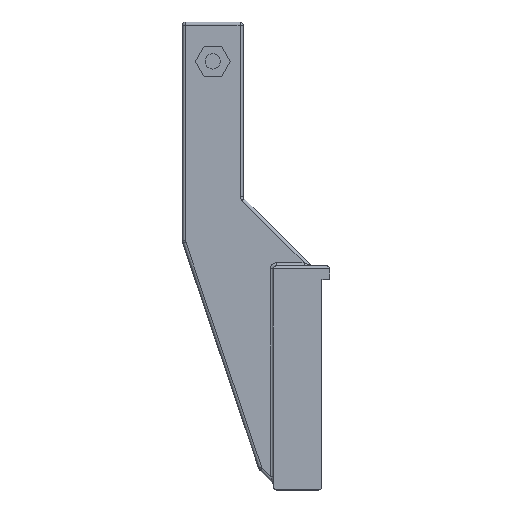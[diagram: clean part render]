
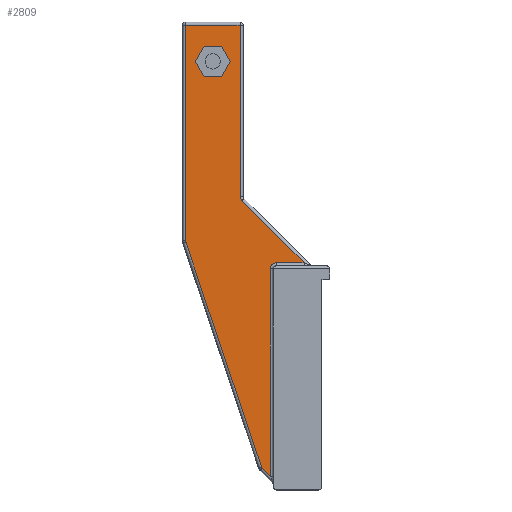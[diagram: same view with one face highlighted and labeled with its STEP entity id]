
A CAD part, top view. The second image highlights one B-rep face of the part: STEP entity #2809.
In plain terms, the highlighted planar face has unit normal (0, 0, 1).
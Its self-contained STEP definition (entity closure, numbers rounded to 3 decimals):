
#24 = EDGE_CURVE ( 'NONE', #2533, #1388, #3323, .T. ) ;
#51 = CARTESIAN_POINT ( 'NONE',  ( 22.772, -4.964, 18. ) ) ;
#77 = CARTESIAN_POINT ( 'NONE',  ( 10.885, 44.566, 18. ) ) ;
#146 = ORIENTED_EDGE ( 'NONE', *, *, #3780, .T. ) ;
#157 = ORIENTED_EDGE ( 'NONE', *, *, #3630, .F. ) ;
#158 = EDGE_CURVE ( 'NONE', #1493, #3966, #3272, .T. ) ;
#178 = CARTESIAN_POINT ( 'NONE',  ( 4.772, -19.743, 18. ) ) ;
#204 = CARTESIAN_POINT ( 'NONE',  ( 30.07, -94.76, 18. ) ) ;
#227 = CARTESIAN_POINT ( 'NONE',  ( 4.772, 51.566, 18. ) ) ;
#248 = VECTOR ( 'NONE', #826, 1000. ) ;
#265 = EDGE_CURVE ( 'NONE', #2603, #2069, #1499, .T. ) ;
#283 = DIRECTION ( 'NONE',  ( 0.5, -0.866, 0. ) ) ;
#301 = EDGE_CURVE ( 'NONE', #633, #522, #3122, .T. ) ;
#319 = DIRECTION ( 'NONE',  ( 0., 0., 1. ) ) ;
#395 = LINE ( 'NONE', #1206, #2754 ) ;
#449 = EDGE_CURVE ( 'NONE', #3808, #2311, #3574, .T. ) ;
#497 = EDGE_LOOP ( 'NONE', ( #2796, #2509, #4215, #946, #759, #1735, #2067, #1888, #146, #3049, #3282, #1085 ) ) ;
#522 = VERTEX_POINT ( 'NONE', #1586 ) ;
#532 = CARTESIAN_POINT ( 'NONE',  ( 45.335, -110.025, 18. ) ) ;
#573 = EDGE_CURVE ( 'NONE', #2217, #3279, #1805, .T. ) ;
#588 = CARTESIAN_POINT ( 'NONE',  ( 32.828, -28.934, 18. ) ) ;
#633 = VERTEX_POINT ( 'NONE', #1621 ) ;
#635 = CARTESIAN_POINT ( 'NONE',  ( 33.828, -121.531, 18. ) ) ;
#646 = DIRECTION ( 'NONE',  ( -1., 0., 0. ) ) ;
#669 = DIRECTION ( 'NONE',  ( 0., 0., 1. ) ) ;
#678 = LINE ( 'NONE', #1961, #3745 ) ;
#718 = DIRECTION ( 'NONE',  ( 1., 0., 0. ) ) ;
#758 = VECTOR ( 'NONE', #1909, 1000. ) ;
#759 = ORIENTED_EDGE ( 'NONE', *, *, #858, .T. ) ;
#809 = VECTOR ( 'NONE', #3396, 1000. ) ;
#826 = DIRECTION ( 'NONE',  ( 0., 1., 0. ) ) ;
#858 = EDGE_CURVE ( 'NONE', #2069, #1022, #3883, .T. ) ;
#873 = DIRECTION ( 'NONE',  ( -1., 0., 0. ) ) ;
#876 = DIRECTION ( 'NONE',  ( -1., 0., 0. ) ) ;
#946 = ORIENTED_EDGE ( 'NONE', *, *, #265, .T. ) ;
#1022 = VERTEX_POINT ( 'NONE', #3218 ) ;
#1049 = EDGE_CURVE ( 'NONE', #1645, #3808, #1285, .T. ) ;
#1069 = AXIS2_PLACEMENT_3D ( 'NONE', #3806, #2815, #873 ) ;
#1085 = ORIENTED_EDGE ( 'NONE', *, *, #24, .T. ) ;
#1149 = DIRECTION ( 'NONE',  ( 0.707, -0.707, 0. ) ) ;
#1206 = CARTESIAN_POINT ( 'NONE',  ( 4.772, -121.531, 18. ) ) ;
#1277 = DIRECTION ( 'NONE',  ( -0.5, -0.866, 0. ) ) ;
#1285 = LINE ( 'NONE', #3599, #758 ) ;
#1336 = LINE ( 'NONE', #532, #2103 ) ;
#1388 = VERTEX_POINT ( 'NONE', #204 ) ;
#1429 = AXIS2_PLACEMENT_3D ( 'NONE', #4168, #1535, #3875 ) ;
#1469 = EDGE_CURVE ( 'NONE', #2603, #3966, #4125, .T. ) ;
#1493 = VERTEX_POINT ( 'NONE', #2624 ) ;
#1499 = LINE ( 'NONE', #3383, #1715 ) ;
#1535 = DIRECTION ( 'NONE',  ( 0., 0., 1. ) ) ;
#1557 = VECTOR ( 'NONE', #4027, 1000. ) ;
#1568 = PLANE ( 'NONE',  #3222 ) ;
#1575 = ORIENTED_EDGE ( 'NONE', *, *, #1049, .F. ) ;
#1581 = EDGE_CURVE ( 'NONE', #1388, #1493, #1336, .T. ) ;
#1586 = CARTESIAN_POINT ( 'NONE',  ( 16.659, 34.566, 18. ) ) ;
#1588 = CARTESIAN_POINT ( 'NONE',  ( 32.828, -27.934, 18. ) ) ;
#1621 = CARTESIAN_POINT ( 'NONE',  ( 10.885, 34.566, 18. ) ) ;
#1645 = VERTEX_POINT ( 'NONE', #2860 ) ;
#1668 = DIRECTION ( 'NONE',  ( -1., 0., 0. ) ) ;
#1679 = ORIENTED_EDGE ( 'NONE', *, *, #4012, .F. ) ;
#1694 = LINE ( 'NONE', #2363, #3357 ) ;
#1715 = VECTOR ( 'NONE', #718, 1000. ) ;
#1735 = ORIENTED_EDGE ( 'NONE', *, *, #2676, .T. ) ;
#1805 = LINE ( 'NONE', #4187, #3995 ) ;
#1833 = VERTEX_POINT ( 'NONE', #2505 ) ;
#1843 = CARTESIAN_POINT ( 'NONE',  ( 16.659, 44.566, 18. ) ) ;
#1847 = ORIENTED_EDGE ( 'NONE', *, *, #449, .F. ) ;
#1858 = CARTESIAN_POINT ( 'NONE',  ( 86.17, -69.19, 18. ) ) ;
#1888 = ORIENTED_EDGE ( 'NONE', *, *, #573, .T. ) ;
#1909 = DIRECTION ( 'NONE',  ( -0.5, 0.866, 0. ) ) ;
#1961 = CARTESIAN_POINT ( 'NONE',  ( 10.885, 34.566, 18. ) ) ;
#2000 = EDGE_CURVE ( 'NONE', #2311, #3303, #1694, .T. ) ;
#2020 = CARTESIAN_POINT ( 'NONE',  ( 19.545, 39.566, 18. ) ) ;
#2067 = ORIENTED_EDGE ( 'NONE', *, *, #3239, .T. ) ;
#2069 = VERTEX_POINT ( 'NONE', #3820 ) ;
#2072 = CARTESIAN_POINT ( 'NONE',  ( 34.828, -26.934, 18. ) ) ;
#2089 = VERTEX_POINT ( 'NONE', #178 ) ;
#2103 = VECTOR ( 'NONE', #1149, 1000. ) ;
#2150 = LINE ( 'NONE', #3109, #3980 ) ;
#2191 = DIRECTION ( 'NONE',  ( -0.707, 0.707, 0. ) ) ;
#2217 = VERTEX_POINT ( 'NONE', #3210 ) ;
#2262 = DIRECTION ( 'NONE',  ( 0., 1., 0. ) ) ;
#2311 = VERTEX_POINT ( 'NONE', #77 ) ;
#2332 = CARTESIAN_POINT ( 'NONE',  ( 30.777, -94.053, 18. ) ) ;
#2363 = CARTESIAN_POINT ( 'NONE',  ( 7.998, 39.566, 18. ) ) ;
#2398 = CARTESIAN_POINT ( 'NONE',  ( 10.885, 44.566, 18. ) ) ;
#2432 = ORIENTED_EDGE ( 'NONE', *, *, #301, .F. ) ;
#2505 = CARTESIAN_POINT ( 'NONE',  ( 4.824, -20.062, 18. ) ) ;
#2509 = ORIENTED_EDGE ( 'NONE', *, *, #158, .T. ) ;
#2533 = VERTEX_POINT ( 'NONE', #3409 ) ;
#2575 = EDGE_LOOP ( 'NONE', ( #2432, #1679, #3531, #1847, #1575, #157 ) ) ;
#2584 = CIRCLE ( 'NONE', #1429, 1. ) ;
#2603 = VERTEX_POINT ( 'NONE', #2072 ) ;
#2624 = CARTESIAN_POINT ( 'NONE',  ( 32.828, -97.518, 18. ) ) ;
#2626 = EDGE_CURVE ( 'NONE', #2089, #1833, #2584, .T. ) ;
#2629 = DIRECTION ( 'NONE',  ( 0., 0., -1. ) ) ;
#2653 = DIRECTION ( 'NONE',  ( -1., 0., 0. ) ) ;
#2676 = EDGE_CURVE ( 'NONE', #1022, #4284, #3214, .T. ) ;
#2730 = DIRECTION ( 'NONE',  ( -1., 0., 0. ) ) ;
#2754 = VECTOR ( 'NONE', #3497, 1000. ) ;
#2796 = ORIENTED_EDGE ( 'NONE', *, *, #1581, .T. ) ;
#2809 = ADVANCED_FACE ( 'NONE', ( #3676, #3569 ), #1568, .F. ) ;
#2815 = DIRECTION ( 'NONE',  ( 0., 0., -1. ) ) ;
#2860 = CARTESIAN_POINT ( 'NONE',  ( 19.545, 39.566, 18. ) ) ;
#2901 = VECTOR ( 'NONE', #2191, 1000. ) ;
#3049 = ORIENTED_EDGE ( 'NONE', *, *, #2626, .T. ) ;
#3050 = EDGE_CURVE ( 'NONE', #1833, #2533, #2150, .T. ) ;
#3074 = CARTESIAN_POINT ( 'NONE',  ( 16.659, 34.566, 18. ) ) ;
#3087 = DIRECTION ( 'NONE',  ( 0.319, -0.948, 0. ) ) ;
#3109 = CARTESIAN_POINT ( 'NONE',  ( 38.446, -119.977, 18. ) ) ;
#3122 = LINE ( 'NONE', #3074, #809 ) ;
#3156 = AXIS2_PLACEMENT_3D ( 'NONE', #2332, #669, #2653 ) ;
#3170 = VECTOR ( 'NONE', #2262, 1000. ) ;
#3202 = CARTESIAN_POINT ( 'NONE',  ( 22.772, -121.531, 18. ) ) ;
#3210 = CARTESIAN_POINT ( 'NONE',  ( 22.772, 51.566, 18. ) ) ;
#3214 = CIRCLE ( 'NONE', #1069, 2. ) ;
#3218 = CARTESIAN_POINT ( 'NONE',  ( 23.358, -6.378, 18. ) ) ;
#3222 = AXIS2_PLACEMENT_3D ( 'NONE', #635, #2629, #646 ) ;
#3239 = EDGE_CURVE ( 'NONE', #4284, #2217, #3840, .T. ) ;
#3272 = LINE ( 'NONE', #1588, #3170 ) ;
#3279 = VERTEX_POINT ( 'NONE', #227 ) ;
#3282 = ORIENTED_EDGE ( 'NONE', *, *, #3050, .T. ) ;
#3303 = VERTEX_POINT ( 'NONE', #3928 ) ;
#3323 = CIRCLE ( 'NONE', #3156, 1. ) ;
#3328 = LINE ( 'NONE', #2020, #1557 ) ;
#3357 = VECTOR ( 'NONE', #1277, 1000. ) ;
#3383 = CARTESIAN_POINT ( 'NONE',  ( 44.914, -26.934, 18. ) ) ;
#3396 = DIRECTION ( 'NONE',  ( 1., 0., 0. ) ) ;
#3409 = CARTESIAN_POINT ( 'NONE',  ( 29.83, -94.372, 18. ) ) ;
#3487 = AXIS2_PLACEMENT_3D ( 'NONE', #3638, #319, #1668 ) ;
#3497 = DIRECTION ( 'NONE',  ( 0., -1., 0. ) ) ;
#3531 = ORIENTED_EDGE ( 'NONE', *, *, #2000, .F. ) ;
#3569 = FACE_OUTER_BOUND ( 'NONE', #497, .T. ) ;
#3574 = LINE ( 'NONE', #2398, #3684 ) ;
#3599 = CARTESIAN_POINT ( 'NONE',  ( 16.659, 44.566, 18. ) ) ;
#3630 = EDGE_CURVE ( 'NONE', #522, #1645, #3328, .T. ) ;
#3638 = CARTESIAN_POINT ( 'NONE',  ( 34.828, -28.934, 18. ) ) ;
#3676 = FACE_BOUND ( 'NONE', #2575, .T. ) ;
#3684 = VECTOR ( 'NONE', #2730, 1000. ) ;
#3745 = VECTOR ( 'NONE', #283, 1000. ) ;
#3780 = EDGE_CURVE ( 'NONE', #3279, #2089, #395, .T. ) ;
#3806 = CARTESIAN_POINT ( 'NONE',  ( 24.772, -4.964, 18. ) ) ;
#3808 = VERTEX_POINT ( 'NONE', #1843 ) ;
#3820 = CARTESIAN_POINT ( 'NONE',  ( 43.914, -26.934, 18. ) ) ;
#3840 = LINE ( 'NONE', #3202, #248 ) ;
#3875 = DIRECTION ( 'NONE',  ( -1., 0., 0. ) ) ;
#3883 = LINE ( 'NONE', #1858, #2901 ) ;
#3928 = CARTESIAN_POINT ( 'NONE',  ( 7.998, 39.566, 18. ) ) ;
#3966 = VERTEX_POINT ( 'NONE', #588 ) ;
#3980 = VECTOR ( 'NONE', #3087, 1000. ) ;
#3995 = VECTOR ( 'NONE', #876, 1000. ) ;
#4012 = EDGE_CURVE ( 'NONE', #3303, #633, #678, .T. ) ;
#4027 = DIRECTION ( 'NONE',  ( 0.5, 0.866, 0. ) ) ;
#4125 = CIRCLE ( 'NONE', #3487, 2. ) ;
#4168 = CARTESIAN_POINT ( 'NONE',  ( 5.772, -19.743, 18. ) ) ;
#4187 = CARTESIAN_POINT ( 'NONE',  ( 33.828, 51.566, 18. ) ) ;
#4215 = ORIENTED_EDGE ( 'NONE', *, *, #1469, .F. ) ;
#4284 = VERTEX_POINT ( 'NONE', #51 ) ;
